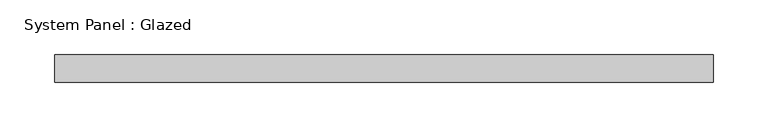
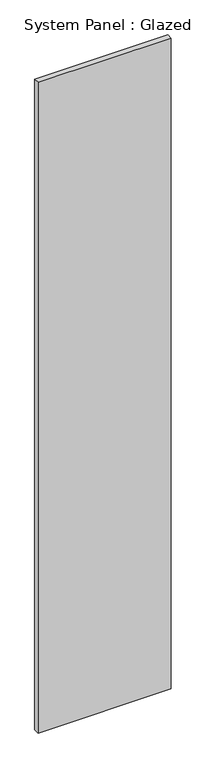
"""IFC4 building model written with IfcOpenShell, lengths in millimetres: plate geometry, System Panel : Glazed."""

from ifc_helpers import new_model, si_unit, origin, origin_with_axes, place, context, project, spatial, polyline, outline, extrude, source, transform, mapped, element, save


def system_panel_glazed_2ee935f9(model_context):
    return source(origin(), model_context, "Body", "SweptSolid", [
        extrude(outline(polyline([(300.0, -49.5), (-300.0, -49.5), (-300.0, -24.5), (300.0, -24.5), (300.0, -49.5)])), origin_with_axes(), (0.0, 0.0, 1.0), 3100.0),
    ])


if __name__ == "__main__":
    model = new_model("IFC4")
    model_context = context("Model", 3, world=origin())
    ifc_project = project(units=[si_unit("LENGTHUNIT", "METRE", prefix="MILLI")], contexts=[model_context])
    site = spatial("IfcSite", under=ifc_project)
    building = spatial("IfcBuilding", under=site)
    placement = place(None, origin())
    system_panel_glazed_shape = system_panel_glazed_2ee935f9(model_context)
    element("IfcPlate", 1, ObjectType="System Panel : Glazed", at=placement, inside=building, context=model_context, shape_type="MappedRepresentation", body=[
        mapped(system_panel_glazed_shape, transform((0.0, 0.0, 0.0), x_axis=(1.0, 0.0, 0.0), y_axis=(0.0, 1.0, 0.0), z_axis=(0.0, 0.0, 1.0))),
    ])
    save(model, "model.ifc")
